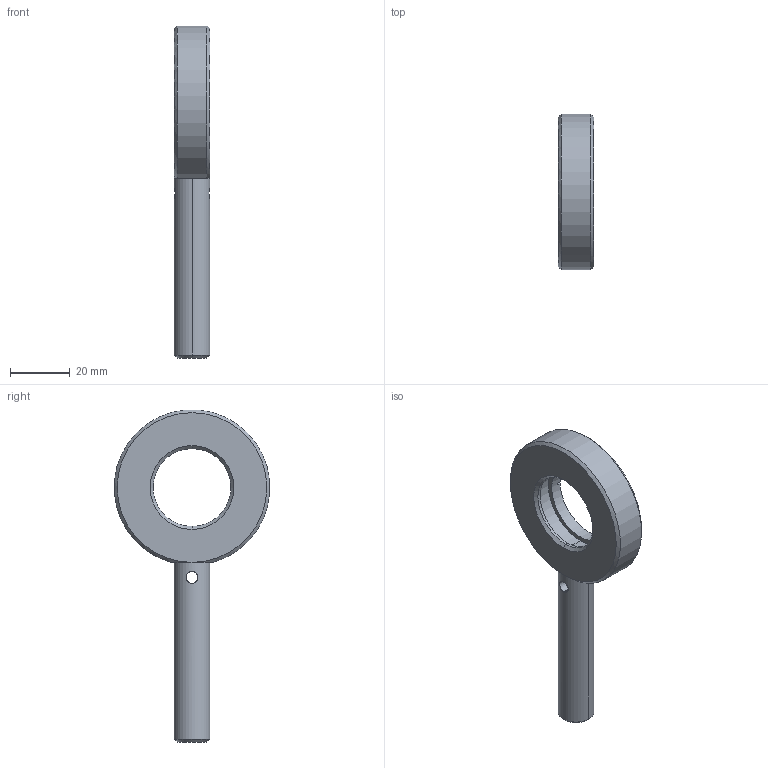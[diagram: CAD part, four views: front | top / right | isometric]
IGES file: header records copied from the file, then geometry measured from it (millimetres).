
Global section: file name: No Iges File Name specified; native system: AutoDesk Inventor R11.0; preprocessor: AutoDesk Inventor Iges Exporter R11.0; author: No Author specified; organization: No Organization specified; date: 20070119.150718; units: millimetre
Bounding box: 12 x 51.84 x 110.9 mm (x, y, z)
Volume: 24260.7 mm3; surface area: 8757.6 mm2
Topology: 3 solids, 3 shells, 43 faces, 99 edges, 62 vertices
Faces by surface type: bspline 14, plane 14, revolution 6, cylinder 5, cone 4
